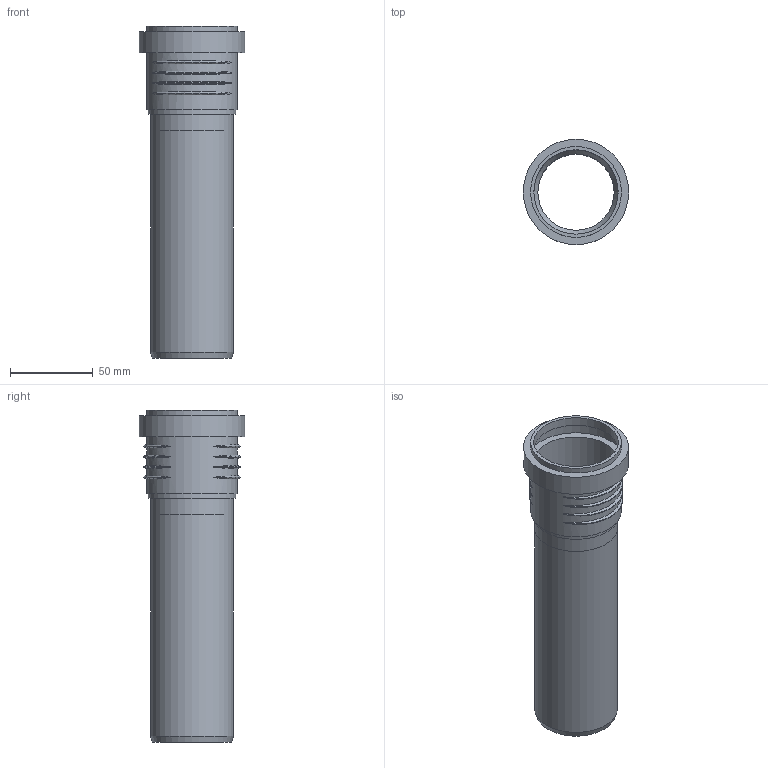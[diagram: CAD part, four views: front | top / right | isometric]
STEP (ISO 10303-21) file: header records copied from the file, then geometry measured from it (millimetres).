
FILE_DESCRIPTION(/* description */ (''),/* implementation_level */ '2;1');
FILE_NAME(/* name */ 'Z:\Geberit\Export\NewStep\390200.stp',/* time_stamp */ '2014-04-02T08:09:26+02:00',/* author */ ('ML'),/* organization */ (''),/* preprocessor_version */ 'ST-DEVELOPER v15.2',/* originating_system */ 'Autodesk Inventor 2014',/* authorisation */ '');
FILE_SCHEMA (('AUTOMOTIVE_DESIGN { 1 0 10303 214 3 1 1 }'));
Length unit declared in the file: millimetre
Products named in the file (3): 861696; 861698ohne; 390200
Bounding box: 63.7 x 63.7 x 200.8 mm (x, y, z)
Volume: 70312.4 mm3; surface area: 71609.7 mm2
Topology: 2 solids, 2 shells, 47 faces, 104 edges, 71 vertices
Faces by surface type: torus 24, cylinder 11, plane 10, cone 2
Full cylindrical faces by diameter (mm): 46.15 x2, 50.15 x2, 51 x2, 53 x1, 55 x2, 59.7 x1, 63.7 x1
Entity records: 1971 total; most frequent: CARTESIAN_POINT 930, DIRECTION 182, ORIENTED_EDGE 174, AXIS2_PLACEMENT_3D 91, EDGE_CURVE 87, EDGE_LOOP 78, VERTEX_POINT 71, STYLED_ITEM 49
